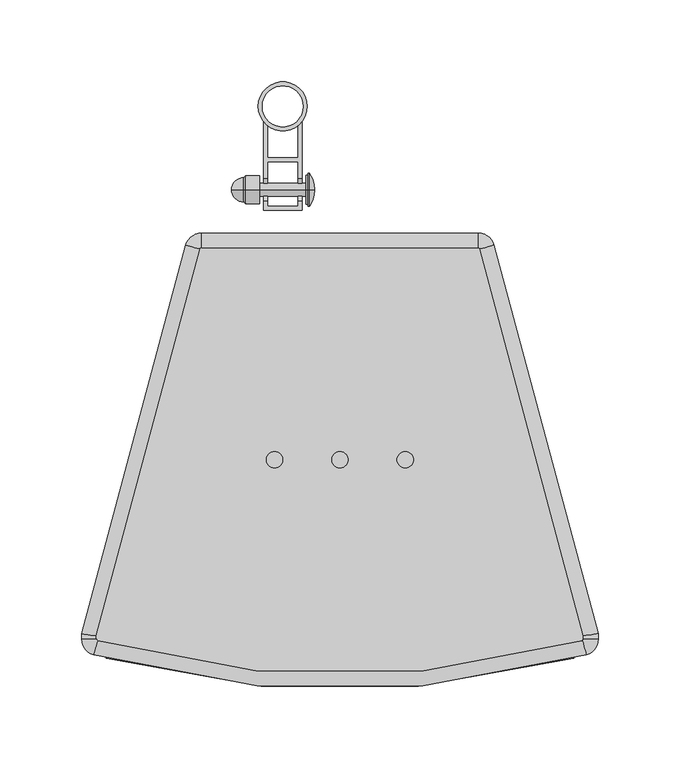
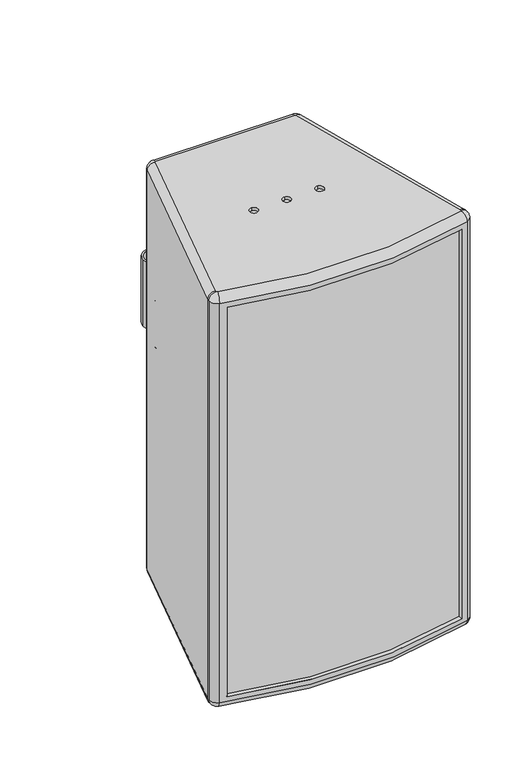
"""IFC4 building model written with IfcOpenShell, lengths in millimetres: proxy geometry, ePS10-WM02-WVM : ePS10-WM02-WVM."""

from ifc_helpers import new_model, si_unit, point, frame, frame_2d, origin, place, context, project, spatial, polyline, circle_curve, ellipse_curve, trimmed, segment, composite_curve, outline, extrude, source, transform, mapped, element, save
from ifc_brep_helpers import plane_surface, cylinder_surface, revolved_surface, advanced_brep


def generic_models_975c6ad0(model_context):
    return source(origin(), model_context, "Body", "SolidModel", [
        advanced_brep(
        [(34.9999424, -247.0947355, 229.96604), (34.9999424, -237.0947355, 229.96604), (34.9999424, -237.0947355, 233.96604), (34.9999424, -247.0947355, 233.96604), (74.9999424, -247.0947355, 229.96604), (74.9999424, -237.0947355, 229.96604), (74.9999424, -237.0947355, 233.96604), (74.9999424, -247.0947355, 233.96604), (-108.0000576, -363.4952849, 218.96604), (-108.0000576, -358.3114485, 218.96604), (177.9999424, -358.3114485, 218.96604), (177.9999424, -363.4952849, 218.96604), (177.9999424, -363.4952849, -282.03396), (177.9999424, -358.3114485, -282.03396), (-108.0000576, -358.3114485, -282.03396), (-108.0000576, -363.4952849, -282.03396), (34.9999424, -237.0947355, -293.03396), (34.9999424, -247.0947355, -293.03396), (-5.0000576, -237.0947355, -293.03396), (-5.0000576, -247.0947355, -293.03396), (74.9999424, -237.0947355, -293.03396), (74.9999424, -247.0947355, -293.03396), (-123.0000576, -348.5252126, 224.9743166), (-59.3317381, -110.9118096, 224.9743166), (-59.3317381, -110.9118096, -288.03396), (-123.0000576, -348.5252126, -288.03396), (-123.0000576, -351.7088177, 224.9743166), (-123.0000576, -351.7088177, -288.03396), (185.7700397, -361.3174888, 224.9743166), (-115.7701548, -361.3174888, 224.9743166), (-115.7701548, -361.3174888, -288.033966), (185.7700397, -361.3174888, -288.03396), (192.9999424, -348.5252126, 224.9743166), (192.9999424, -351.7088177, 224.9743166), (192.9999424, -351.7088177, -288.03396), (192.9999424, -348.5252126, -288.03396), (129.331623, -110.9118096, 224.9743166), (129.331623, -110.9118096, -288.03396), (119.6723647, -103.5, 224.9743166), (119.6723647, -103.5, -288.03396), (-5.6566602, -109.5947355, 38.46604), (5.6566602, -109.5947355, 38.46604), (5.6566602, -103.5, 38.46604), (-5.6566602, -103.5, 38.46604), (-114.0083342, -351.7088177, 233.96604), (-113.27936, -352.6776375, 233.96604), (183.2792449, -352.6776375, 233.96604), (184.0082191, -351.7088177, 233.96604), (184.0082191, -349.7089954, 233.96604), (120.6462852, -113.2390388, 233.96604), (119.6723647, -112.4917234, 233.96604), (-49.6724798, -103.5, 224.9743166), (-49.6724798, -112.4917234, 233.96604), (-50.6464003, -113.2390388, 233.96604), (-114.0083342, -349.7089954, 233.96604), (-5.0000576, -247.0947355, 233.96604), (-5.0000576, -237.0947355, 233.96604), (119.6723647, -112.5, -297.03396), (120.6382906, -113.241181, -297.03396), (183.9999424, -349.710085, -297.03396), (183.9999424, -351.7088177, -297.03396), (183.2769522, -352.6696848, -297.03396), (-113.2770673, -352.6696848, -297.03396), (-114.0000576, -351.7088177, -297.03396), (-114.0000576, -349.710085, -297.03396), (-50.6384057, -113.241181, -297.03396), (-49.6724798, -112.5, -297.03396), (34.9999424, -237.0947355, -297.03396), (34.9999424, -247.0947355, -297.03396), (-5.0000576, -237.0947355, -297.03396), (-5.0000576, -247.0947355, -297.03396), (74.9999424, -237.0947355, -297.03396), (74.9999424, -247.0947355, -297.03396), (-5.0000576, -237.0947355, 229.96604), (-5.0000576, -247.0947355, 229.96604), (75.6566602, -109.5947355, -31.53396), (64.3433398, -109.5947355, -31.53396), (5.6566602, -109.5947355, -31.53396), (-5.6566602, -109.5947355, -31.53396), (64.3433398, -103.5, -31.53396), (75.6566602, -103.5, -31.53396), (-49.6724798, -103.5, -288.03396), (5.6566602, -103.5, -31.53396), (-5.6566602, -103.5, -31.53396)],
        [
            (0, 1, circle_curve(frame((34.9999424, -242.0947355, 229.96604), z_axis=(0.0, 0.0, -1.0), x_axis=(0.0, -1.0, 0.0)), 5.0)),
            (1, 2),
            (2, 3, circle_curve(frame((34.9999424, -242.0947355, 233.96604), z_axis=(0.0, 0.0, 1.0), x_axis=(0.0, -1.0, 0.0)), 5.0)),
            (3, 0),
            (4, 5, circle_curve(frame((74.9999424, -242.0947355, 229.96604), z_axis=(0.0, 0.0, -1.0), x_axis=(0.0, -1.0, 0.0)), 5.0)),
            (5, 6),
            (6, 7, circle_curve(frame((74.9999424, -242.0947355, 233.96604), z_axis=(0.0, 0.0, 1.0), x_axis=(0.0, -1.0, 0.0)), 5.0)),
            (7, 4),
            (8, 9),
            (9, 10, circle_curve(frame((34.9999424, 161.660636, 218.96604), z_axis=(0.0, 0.0, 1.0), x_axis=(1.0, 0.0, 0.0)), 539.277265)),
            (10, 11),
            (11, 8, circle_curve(frame((34.9999424, 161.660636, 218.96604), z_axis=(0.0, 0.0, -1.0), x_axis=(1.0, 0.0, 0.0)), 544.277265)),
            (12, 13),
            (13, 14, circle_curve(frame((34.9999424, 161.660636, -282.03396), z_axis=(0.0, 0.0, -1.0), x_axis=(1.0, 0.0, 0.0)), 539.277265)),
            (14, 15),
            (15, 12, circle_curve(frame((34.9999424, 161.660636, -282.03396), z_axis=(0.0, 0.0, 1.0), x_axis=(1.0, 0.0, 0.0)), 544.277265)),
            (16, 17, circle_curve(frame((34.9999424, -242.0947355, -293.03396), z_axis=(0.0, 0.0, -1.0), x_axis=(0.0, -1.0, 0.0)), 5.0)),
            (17, 16, circle_curve(frame((34.9999424, -242.0947355, -293.03396), z_axis=(0.0, 0.0, -1.0), x_axis=(0.0, -1.0, 0.0)), 5.0)),
            (18, 19, circle_curve(frame((-5.0000576, -242.0947355, -293.03396), z_axis=(0.0, 0.0, -1.0), x_axis=(0.0, -1.0, 0.0)), 5.0)),
            (19, 18, circle_curve(frame((-5.0000576, -242.0947355, -293.03396), z_axis=(0.0, 0.0, -1.0), x_axis=(0.0, -1.0, 0.0)), 5.0)),
            (20, 21, circle_curve(frame((74.9999424, -242.0947355, -293.03396), z_axis=(0.0, 0.0, -1.0), x_axis=(0.0, -1.0, 0.0)), 5.0)),
            (21, 20, circle_curve(frame((74.9999424, -242.0947355, -293.03396), z_axis=(0.0, 0.0, -1.0), x_axis=(0.0, -1.0, 0.0)), 5.0)),
            (22, 23),
            (23, 24),
            (24, 25),
            (25, 22),
            (26, 22),
            (25, 27),
            (27, 26),
            (28, 29, circle_curve(frame((34.9999424, 161.660636, 224.9743166), z_axis=(0.0, 0.0, -1.0), x_axis=(1.0, 0.0, 0.0)), 544.277265)),
            (29, 30),
            (30, 31, circle_curve(frame((34.9999424, 161.660636, -288.03396), z_axis=(0.0, 0.0, 1.0), x_axis=(1.0, 0.0, 0.0)), 544.277265)),
            (31, 28),
            (11, 12),
            (15, 8),
            (32, 33),
            (33, 34),
            (34, 35),
            (35, 32),
            (36, 32),
            (35, 37),
            (37, 36),
            (38, 36, circle_curve(frame((119.6723647, -113.5, 224.9743166), z_axis=(0.0, 0.0, -1.0), x_axis=(1.0, 0.0, 0.0)), 10.0)),
            (37, 39, circle_curve(frame((119.6723647, -113.5, -288.03396), z_axis=(0.0, 0.0, 1.0), x_axis=(1.0, 0.0, 0.0)), 10.0)),
            (39, 38),
            (29, 26, circle_curve(frame((-113.0000576, -351.7088177, 224.9743166), z_axis=(0.0, 0.0, -1.0), x_axis=(1.0, 0.0, 0.0)), 10.0)),
            (27, 30, circle_curve(frame((-113.0000576, -351.7088177, -288.03396), z_axis=(0.0, 0.0, 1.0), x_axis=(1.0, 0.0, 0.0)), 10.0)),
            (33, 28, circle_curve(frame((182.9999424, -351.7088177, 224.9743166), z_axis=(0.0, 0.0, -1.0), x_axis=(1.0, 0.0, 0.0)), 10.0)),
            (31, 34, circle_curve(frame((182.9999424, -351.7088177, -288.03396), z_axis=(0.0, 0.0, 1.0), x_axis=(1.0, 0.0, 0.0)), 10.0)),
            (40, 41, circle_curve(frame((0.0, -109.5947355, 38.46604), z_axis=(0.0, -1.0, 0.0), x_axis=(-1.0, 0.0, 0.0)), 5.6566602)),
            (41, 42),
            (42, 43, circle_curve(frame((0.0, -103.5, 38.46604), z_axis=(0.0, 1.0, 0.0), x_axis=(-1.0, 0.0, 0.0)), 5.6566602)),
            (43, 40),
            (41, 40, circle_curve(frame((0.0, -109.5947355, 38.46604), z_axis=(0.0, -1.0, 0.0), x_axis=(-1.0, 0.0, 0.0)), 5.6566602)),
            (43, 42, circle_curve(frame((0.0, -103.5, 38.46604), z_axis=(0.0, 1.0, 0.0), x_axis=(-1.0, 0.0, 0.0)), 5.6566602)),
            (10, 13),
            (44, 26, circle_curve(frame((-114.0083342, -351.7088177, 224.9743166), z_axis=(0.0, -1.0, 0.0), x_axis=(1.0, 0.0, 0.0)), 8.9917234)),
            (29, 45, circle_curve(frame((-113.27936, -352.6776375, 224.9743166), z_axis=(-0.960867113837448, 0.27700972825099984, 0.0), x_axis=(0.27700972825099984, 0.960867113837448, 0.0)), 8.9917234)),
            (45, 44, circle_curve(frame((-113.0000576, -351.7088177, 233.96604), z_axis=(0.0, 0.0, -1.0), x_axis=(-1.0, 0.0, 0.0)), 1.0082766)),
            (28, 46, circle_curve(frame((183.2792449, -352.6776375, 224.9743166), z_axis=(-0.9608671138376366, -0.27700972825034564, 0.0), x_axis=(-0.27700972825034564, 0.9608671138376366, 0.0)), 8.9917234)),
            (46, 45, circle_curve(frame((34.9999424, 161.660636, 233.96604), z_axis=(0.0, 0.0, -1.0), x_axis=(-0.27700972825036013, -0.9608671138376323, 0.0)), 535.2855417)),
            (33, 47, circle_curve(frame((184.0082191, -351.7088177, 224.9743166), z_axis=(0.0, -1.0000000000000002, 0.0), x_axis=(-1.0000000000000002, 0.0, 0.0)), 8.9917234)),
            (47, 46, circle_curve(frame((182.9999424, -351.7088177, 233.96604), z_axis=(0.0, 0.0, -1.0), x_axis=(0.2770097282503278, -0.9608671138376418, 0.0)), 1.0082766)),
            (32, 48, ellipse_curve(frame((184.0082191, -349.7089954, 224.9743166), z_axis=(0.1305261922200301, -0.9914448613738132, 0.0), x_axis=(0.991444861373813, 0.13052619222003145, 0.0)), 9.0693126, 8.9917234)),
            (48, 47),
            (36, 49, circle_curve(frame((120.6462852, -113.2390388, 224.9743166), z_axis=(0.25881904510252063, -0.9659258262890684, 0.0), x_axis=(-0.9659258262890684, -0.25881904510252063, 0.0)), 8.9917234)),
            (49, 48),
            (38, 50, circle_curve(frame((119.6723647, -112.4917234, 224.9743166), z_axis=(1.0, 0.0, 0.0), x_axis=(0.0, -1.0, 0.0)), 8.9917234)),
            (50, 49, circle_curve(frame((119.6723647, -113.5, 233.96604), z_axis=(0.0, 0.0, -1.0), x_axis=(0.9659258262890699, 0.25881904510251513, 0.0)), 1.0082766)),
            (51, 52, circle_curve(frame((-49.6724798, -112.4917234, 224.9743166), z_axis=(1.0, 0.0, 0.0), x_axis=(0.0, -1.0, 0.0)), 8.9917234)),
            (52, 50),
            (38, 51),
            (52, 53, circle_curve(frame((-49.6724798, -113.5, 233.96604), z_axis=(0.0, 0.0, 1.0), x_axis=(0.0, 1.0, 0.0)), 1.0082766)),
            (53, 54),
            (54, 44),
            (2, 3, circle_curve(frame((34.9999424, -242.0947355, 233.96604), z_axis=(0.0, 0.0, -1.0), x_axis=(0.0, -1.0, 0.0)), 5.0)),
            (55, 56, circle_curve(frame((-5.0000576, -242.0947355, 233.96604), z_axis=(0.0, 0.0, -1.0), x_axis=(0.0, -1.0, 0.0)), 5.0)),
            (56, 55, circle_curve(frame((-5.0000576, -242.0947355, 233.96604), z_axis=(0.0, 0.0, -1.0), x_axis=(0.0, -1.0, 0.0)), 5.0)),
            (6, 7, circle_curve(frame((74.9999424, -242.0947355, 233.96604), z_axis=(0.0, 0.0, -1.0), x_axis=(0.0, -1.0, 0.0)), 5.0)),
            (57, 58, circle_curve(frame((119.6723647, -113.5, -297.03396), z_axis=(0.0, 0.0, -1.0), x_axis=(0.0, 1.0, 0.0)), 1.0)),
            (58, 59),
            (59, 60),
            (60, 61, circle_curve(frame((182.9999424, -351.7088177, -297.03396), z_axis=(0.0, 0.0, -1.0), x_axis=(1.0, 0.0, 0.0)), 1.0)),
            (61, 62, circle_curve(frame((34.9999424, 161.660636, -297.03396), z_axis=(0.0, 0.0, -1.0), x_axis=(0.27700972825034, -0.9608671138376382, 0.0)), 535.277265)),
            (62, 63, circle_curve(frame((-113.0000576, -351.7088177, -297.03396), z_axis=(0.0, 0.0, -1.0), x_axis=(-0.2770097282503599, -0.9608671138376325, 0.0)), 1.0)),
            (63, 64),
            (64, 65),
            (65, 66, circle_curve(frame((-49.6724798, -113.5, -297.03396), z_axis=(0.0, 0.0, -1.0), x_axis=(-0.9659258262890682, 0.25881904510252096, 0.0)), 1.0)),
            (66, 57),
            (67, 68, circle_curve(frame((34.9999424, -242.0947355, -297.03396), z_axis=(0.0, 0.0, 1.0), x_axis=(0.0, -1.0, 0.0)), 5.0)),
            (68, 67, circle_curve(frame((34.9999424, -242.0947355, -297.03396), z_axis=(0.0, 0.0, 1.0), x_axis=(0.0, -1.0, 0.0)), 5.0)),
            (69, 70, circle_curve(frame((-5.0000576, -242.0947355, -297.03396), z_axis=(0.0, 0.0, 1.0), x_axis=(0.0, -1.0, 0.0)), 5.0)),
            (70, 69, circle_curve(frame((-5.0000576, -242.0947355, -297.03396), z_axis=(0.0, 0.0, 1.0), x_axis=(0.0, -1.0, 0.0)), 5.0)),
            (71, 72, circle_curve(frame((74.9999424, -242.0947355, -297.03396), z_axis=(0.0, 0.0, 1.0), x_axis=(0.0, -1.0, 0.0)), 5.0)),
            (72, 71, circle_curve(frame((74.9999424, -242.0947355, -297.03396), z_axis=(0.0, 0.0, 1.0), x_axis=(0.0, -1.0, 0.0)), 5.0)),
            (0, 1, circle_curve(frame((34.9999424, -242.0947355, 229.96604), z_axis=(0.0, 0.0, 1.0), x_axis=(0.0, -1.0, 0.0)), 5.0)),
            (73, 74, circle_curve(frame((-5.0000576, -242.0947355, 229.96604), z_axis=(0.0, 0.0, 1.0), x_axis=(0.0, -1.0, 0.0)), 5.0)),
            (74, 73, circle_curve(frame((-5.0000576, -242.0947355, 229.96604), z_axis=(0.0, 0.0, 1.0), x_axis=(0.0, -1.0, 0.0)), 5.0)),
            (4, 5, circle_curve(frame((74.9999424, -242.0947355, 229.96604), z_axis=(0.0, 0.0, 1.0), x_axis=(0.0, -1.0, 0.0)), 5.0)),
            (17, 68),
            (67, 16),
            (19, 70),
            (69, 18),
            (21, 72),
            (71, 20),
            (75, 76, circle_curve(frame((70.0, -109.5947355, -31.53396), z_axis=(0.0, 1.0, 0.0), x_axis=(-1.0, 0.0, 0.0)), 5.6566602)),
            (76, 75, circle_curve(frame((70.0, -109.5947355, -31.53396), z_axis=(0.0, 1.0, 0.0), x_axis=(-1.0, 0.0, 0.0)), 5.6566602)),
            (77, 78, circle_curve(frame((0.0, -109.5947355, -31.53396), z_axis=(0.0, 1.0, 0.0), x_axis=(-1.0, 0.0, 0.0)), 5.6566602)),
            (78, 77, circle_curve(frame((0.0, -109.5947355, -31.53396), z_axis=(0.0, 1.0, 0.0), x_axis=(-1.0, 0.0, 0.0)), 5.6566602)),
            (76, 79),
            (79, 80, circle_curve(frame((70.0, -103.5, -31.53396), z_axis=(0.0, 1.0, 0.0), x_axis=(-1.0, 0.0, 0.0)), 5.6566602)),
            (80, 75),
            (80, 79, circle_curve(frame((70.0, -103.5, -31.53396), z_axis=(0.0, 1.0, 0.0), x_axis=(-1.0, 0.0, 0.0)), 5.6566602)),
            (39, 81),
            (81, 51),
            (82, 83, circle_curve(frame((0.0, -103.5, -31.53396), z_axis=(0.0, -1.0, 0.0), x_axis=(-1.0, 0.0, 0.0)), 5.6566602)),
            (83, 82, circle_curve(frame((0.0, -103.5, -31.53396), z_axis=(0.0, -1.0, 0.0), x_axis=(-1.0, 0.0, 0.0)), 5.6566602)),
            (9, 14),
            (23, 53, circle_curve(frame((-50.6464003, -113.2390388, 224.9743166), z_axis=(0.2588190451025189, 0.9659258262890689, 0.0), x_axis=(0.9659258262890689, -0.2588190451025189, 0.0)), 8.9917234)),
            (51, 23, circle_curve(frame((-49.6724798, -113.5, 224.9743166), z_axis=(0.0, 0.0, 1.0), x_axis=(0.0, 1.0, 0.0)), 10.0)),
            (22, 54, ellipse_curve(frame((-114.0083342, -349.7089954, 224.9743166), z_axis=(0.1305261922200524, 0.9914448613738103, 0.0), x_axis=(-0.9914448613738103, 0.13052619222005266, 0.0)), 9.0693126, 8.9917234)),
            (61, 31, circle_curve(frame((183.2769522, -352.6696848, -288.03396), z_axis=(-0.9608671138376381, -0.2770097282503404, 0.0), x_axis=(-0.2770097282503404, 0.9608671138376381, 0.0)), 9.0)),
            (30, 62, circle_curve(frame((-113.2770673, -352.6696848, -288.03396), z_axis=(0.9608671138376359, -0.2770097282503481, 0.0), x_axis=(0.2770097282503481, 0.9608671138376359, 0.0)), 9.0)),
            (27, 63, circle_curve(frame((-114.0000576, -351.7088177, -288.03396), z_axis=(0.0, -1.0, 0.0), x_axis=(1.0, 0.0, 0.0)), 9.0)),
            (25, 64, ellipse_curve(frame((-114.0000576, -349.710085, -288.03396), z_axis=(-0.1305261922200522, -0.9914448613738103, 0.0), x_axis=(-0.9914448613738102, 0.1305261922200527, 0.0)), 9.0776606, 9.0)),
            (24, 65, circle_curve(frame((-50.6384057, -113.241181, -288.03396), z_axis=(-0.25881904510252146, -0.9659258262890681, 0.0), x_axis=(0.9659258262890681, -0.25881904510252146, 0.0)), 9.0)),
            (24, 81, circle_curve(frame((-49.6724798, -113.5, -288.03396), z_axis=(0.0, 0.0, -1.0), x_axis=(-0.9659258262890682, 0.25881904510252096, 0.0)), 10.0)),
            (81, 66, circle_curve(frame((-49.6724798, -112.5, -288.03396), z_axis=(-1.0, 0.0, 0.0), x_axis=(0.0, -1.0, 0.0)), 9.0)),
            (39, 57, circle_curve(frame((119.6723647, -112.5, -288.03396), z_axis=(-1.0, 0.0, 0.0), x_axis=(0.0, -1.0, 0.0)), 9.0)),
            (73, 56),
            (55, 74),
            (78, 83),
            (82, 77),
            (37, 58, circle_curve(frame((120.6382906, -113.241181, -288.03396), z_axis=(-0.25881904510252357, 0.9659258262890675, 0.0), x_axis=(-0.9659258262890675, -0.25881904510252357, 0.0)), 9.0)),
            (35, 59, ellipse_curve(frame((183.9999424, -349.710085, -288.03396), z_axis=(-0.13052619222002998, 0.9914448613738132, 0.0), x_axis=(0.9914448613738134, 0.13052619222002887, 0.0)), 9.0776606, 9.0)),
            (34, 60, circle_curve(frame((183.9999424, -351.7088177, -288.03396), z_axis=(0.0, 1.0, 0.0), x_axis=(-1.0, 0.0, 0.0)), 9.0)),
        ],
        [
            revolved_surface(polyline([(34.9999424, -247.0947355, 233.96604), (34.9999424, -247.0947355, 229.96604)]), (34.9999424, -242.0947355, 229.96604), (0.0, 0.0, 1.0)),
            revolved_surface(polyline([(74.9999424, -247.0947355, 233.96604), (74.9999424, -247.0947355, 229.96604)]), (74.9999424, -242.0947355, 233.96604), (0.0, 0.0, 1.0)),
            plane_surface(frame((177.9999424, -428.8546532, 218.96604), z_axis=(0.0, 0.0, -1.0), x_axis=(0.0, 1.0, 0.0))),
            plane_surface(frame((177.9999424, -428.8546532, -282.03396), z_axis=(0.0, 0.0, 1.0), x_axis=(0.0, -1.0, 0.0))),
            plane_surface(frame((34.9999424, -247.0947355, -293.03396), z_axis=(0.0, 0.0, -1.0), x_axis=(1.0, 0.0, 0.0))),
            plane_surface(frame((-59.3317381, -110.9118096, 233.96604), z_axis=(-0.965925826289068, 0.258819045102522, 0.0), x_axis=(0.0, 0.0, -1.0))),
            plane_surface(frame((-123.0000576, -348.5252126, 233.96604), z_axis=(-1.0, 0.0, 0.0), x_axis=(0.0, 0.0, -1.0))),
            cylinder_surface(frame((34.9999424, 161.660636, -297.03396), z_axis=(0.0, 0.0, 1.0), x_axis=(1.0, 0.0, 0.0)), 544.277265),
            plane_surface(frame((192.9999424, -351.7088177, 233.96604), z_axis=(1.0, 0.0, 0.0), x_axis=(0.0, 0.0, -1.0))),
            plane_surface(frame((192.9999424, -348.5252126, 233.96604), z_axis=(0.9659258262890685, 0.2588190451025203, 0.0), x_axis=(0.0, 0.0, -1.0))),
            cylinder_surface(frame((119.6723647, -113.5, -297.03396), z_axis=(0.0, 0.0, 1.0), x_axis=(1.0, 0.0, 0.0)), 10.0),
            cylinder_surface(frame((-113.0000576, -351.7088177, -297.03396), z_axis=(0.0, 0.0, 1.0), x_axis=(1.0, 0.0, 0.0)), 10.0),
            cylinder_surface(frame((182.9999424, -351.7088177, -297.03396), z_axis=(0.0, 0.0, 1.0), x_axis=(1.0, 0.0, 0.0)), 10.0),
            revolved_surface(polyline([(-5.6566602, -103.5, 38.46604), (-5.6566602, -109.5947355, 38.46604)]), (0.0, -97.5947355, 38.46604), (0.0, 1.0, 0.0)),
            plane_surface(frame((177.9999424, -363.4952849, 218.96604), z_axis=(-1.0, 0.0, 0.0), x_axis=(0.0, 0.0, -1.0))),
            revolved_surface(trimmed(ellipse_curve(frame((-114.0083342, -351.7088177, 224.9743166), z_axis=(0.0, 1.0, 0.0), x_axis=(1.0, 0.0, 0.0)), 8.9917234, 8.9917234), [point((-123.0000576, -351.7088177, 224.9743166))], [point((-114.0083342, -351.7088177, 233.96604))], True, "CARTESIAN"), (-113.0000576, -351.7088177, 233.96604), (0.0, 0.0, 1.0)),
            revolved_surface(trimmed(ellipse_curve(frame((-113.27936, -352.6776375, 224.9743166), z_axis=(-0.9608671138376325, 0.27700972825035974, 0.0), x_axis=(0.27700972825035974, 0.9608671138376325, 0.0)), 8.9917234, 8.9917234), [point((-115.7701548, -361.3174888, 224.9743166))], [point((-113.27936, -352.6776375, 233.96604))], True, "CARTESIAN"), (34.9999424, 161.660636, 233.96604), (0.0, 0.0, 1.0)),
            revolved_surface(trimmed(ellipse_curve(frame((183.2792449, -352.6776375, 224.9743166), z_axis=(-0.9608671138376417, -0.27700972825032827, 0.0), x_axis=(-0.27700972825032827, 0.9608671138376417, 0.0)), 8.9917234, 8.9917234), [point((185.7700397, -361.3174888, 224.9743166))], [point((183.2792449, -352.6776375, 233.96604))], True, "CARTESIAN"), (182.9999424, -351.7088177, 233.96604), (0.0, 0.0, 1.0)),
            cylinder_surface(frame((184.0082191, -351.7088177, 224.9743166), z_axis=(0.0, 1.0, 0.0), x_axis=(-1.0, 0.0, 0.0)), 8.9917234),
            cylinder_surface(frame((184.3146046, -350.8524418, 224.9743166), z_axis=(-0.25881904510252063, 0.9659258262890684, 0.0), x_axis=(-0.9659258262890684, -0.25881904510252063, 0.0)), 8.9917234),
            revolved_surface(trimmed(ellipse_curve(frame((120.6462852, -113.2390388, 224.9743166), z_axis=(0.25881904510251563, -0.9659258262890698, 0.0), x_axis=(-0.9659258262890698, -0.25881904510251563, 0.0)), 8.9917234, 8.9917234), [point((129.331623, -110.9118096, 224.9743166))], [point((120.6462852, -113.2390388, 233.96604))], True, "CARTESIAN"), (119.6723647, -113.5, 233.96604), (0.0, 0.0, 1.0)),
            cylinder_surface(frame((119.6723647, -112.4917234, 224.9743166), z_axis=(-1.0, 0.0, 0.0), x_axis=(0.0, -1.0, 0.0)), 8.9917234),
            plane_surface(frame((-50.0561433, -103.5, 233.96604), z_axis=(0.0, 0.0, 1.0), x_axis=(-1.0, 0.0, 0.0))),
            plane_surface(frame((-50.0561433, -103.5, -297.03396), z_axis=(0.0, 0.0, -1.0), x_axis=(1.0, 0.0, 0.0))),
            plane_surface(frame((34.9999424, -247.0947355, 229.96604), z_axis=(0.0, 0.0, 1.0), x_axis=(-1.0, 0.0, 0.0))),
            revolved_surface(polyline([(34.9999424, -247.0947355, -293.03396), (34.9999424, -247.0947355, -297.03396)]), (34.9999424, -242.0947355, -301.03396), (0.0, 0.0, 1.0)),
            revolved_surface(polyline([(-5.0000576, -247.0947355, -293.03396), (-5.0000576, -247.0947355, -297.03396)]), (-5.0000576, -242.0947355, -297.03396), (0.0, 0.0, 1.0)),
            revolved_surface(polyline([(74.9999424, -247.0947355, -293.03396), (74.9999424, -247.0947355, -297.03396)]), (74.9999424, -242.0947355, -297.03396), (0.0, 0.0, 1.0)),
            plane_surface(frame((-5.6566602, -109.5947355, -31.53396), z_axis=(0.0, 1.0, 0.0), x_axis=(0.0, 0.0, -1.0))),
            revolved_surface(polyline([(64.3433398, -103.5, -31.53396), (64.3433398, -109.5947355, -31.53396)]), (70.0, -97.5947355, -31.53396), (0.0, 1.0, 0.0)),
            plane_surface(frame((119.6723647, -103.5, 233.96604), z_axis=(0.0, 1.0, 0.0), x_axis=(0.0, 0.0, -1.0))),
            cylinder_surface(frame((34.9999424, 161.660636, -282.03396), z_axis=(0.0, 0.0, -1.0), x_axis=(1.0, 0.0, 0.0)), 539.277265),
            plane_surface(frame((-108.0000576, -358.3114485, 218.96604), z_axis=(1.0, 0.0, 0.0), x_axis=(0.0, 0.0, -1.0))),
            revolved_surface(trimmed(ellipse_curve(frame((-49.6724798, -112.4917234, 224.9743166), z_axis=(1.0, 0.0, 0.0), x_axis=(0.0, -1.0, 0.0)), 8.9917234, 8.9917234), [point((-49.6724798, -103.5, 224.9743166))], [point((-49.6724798, -112.4917234, 233.96604))], True, "CARTESIAN"), (-49.6724798, -113.5, 233.96604), (0.0, 0.0, 1.0)),
            cylinder_surface(frame((-50.6464003, -113.2390388, 224.9743166), z_axis=(-0.2588190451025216, -0.965925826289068, 0.0), x_axis=(0.965925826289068, -0.2588190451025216, 0.0)), 8.9917234),
            revolved_surface(trimmed(ellipse_curve(frame((183.2769522, -352.6696848, -288.03396), z_axis=(0.9608671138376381, 0.2770097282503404, 0.0), x_axis=(-0.2770097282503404, 0.9608671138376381, 0.0)), 9.0, 9.0), [point((185.7700397, -361.3174888, -288.03396))], [point((183.2769522, -352.6696848, -297.03396))], True, "CARTESIAN"), (34.9999424, 161.660636, -297.03396), (0.0, 0.0, -1.0)),
            revolved_surface(trimmed(ellipse_curve(frame((-113.2770673, -352.6696848, -288.03396), z_axis=(0.9608671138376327, -0.27700972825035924, 0.0), x_axis=(0.27700972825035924, 0.9608671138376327, 0.0)), 9.0, 9.0), [point((-115.7701548, -361.3174888, -288.03396))], [point((-113.2770673, -352.6696848, -297.03396))], True, "CARTESIAN"), (-113.0000576, -351.7088177, -297.03396), (0.0, 0.0, -1.0)),
            cylinder_surface(frame((-114.0000576, -351.7088177, -288.03396), z_axis=(0.0, 1.0, 0.0), x_axis=(1.0, 0.0, 0.0)), 9.0),
            cylinder_surface(frame((-114.3067251, -350.854584, -288.03396), z_axis=(0.25881904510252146, 0.9659258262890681, 0.0), x_axis=(0.9659258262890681, -0.25881904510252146, 0.0)), 9.0),
            revolved_surface(trimmed(ellipse_curve(frame((-50.6384057, -113.241181, -288.03396), z_axis=(-0.25881904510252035, -0.9659258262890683, 0.0), x_axis=(0.9659258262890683, -0.25881904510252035, 0.0)), 9.0, 9.0), [point((-59.3317381, -110.9118096, -288.03396))], [point((-50.6384057, -113.241181, -297.03396))], True, "CARTESIAN"), (-49.6724798, -113.5, -297.03396), (0.0, 0.0, -1.0)),
            cylinder_surface(frame((-49.6724798, -112.5, -288.03396), z_axis=(1.0, 0.0, 0.0), x_axis=(0.0, -1.0, 0.0)), 9.0),
            revolved_surface(polyline([(-5.0000576, -247.0947355, 233.96604), (-5.0000576, -247.0947355, 229.96604)]), (-5.0000576, -242.0947355, 233.96604), (0.0, 0.0, 1.0)),
            revolved_surface(polyline([(-5.6566602, -103.5, -31.53396), (-5.6566602, -109.5947355, -31.53396)]), (0.0, -109.5947355, -31.53396), (0.0, 1.0, 0.0)),
            cylinder_surface(frame((-49.6724798, -113.5, -297.03396), z_axis=(0.0, 0.0, 1.0), x_axis=(1.0, 0.0, 0.0)), 10.0),
            cylinder_surface(frame((-114.0083342, -348.5252126, 224.9743166), z_axis=(0.0, -1.0, 0.0), x_axis=(1.0, 0.0, 0.0)), 8.9917234),
            revolved_surface(trimmed(ellipse_curve(frame((119.6723647, -112.5, -288.03396), z_axis=(-1.0, 0.0, 0.0), x_axis=(0.0, -1.0, 0.0)), 9.0, 9.0), [point((119.6723647, -103.5, -288.03396))], [point((119.6723647, -112.5, -297.03396))], True, "CARTESIAN"), (119.6723647, -113.5, -297.03396), (0.0, 0.0, -1.0)),
            cylinder_surface(frame((120.6382906, -113.241181, -288.03396), z_axis=(0.2588190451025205, -0.9659258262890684, 0.0), x_axis=(-0.9659258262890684, -0.2588190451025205, 0.0)), 9.0),
            cylinder_surface(frame((183.9999424, -348.5252126, -288.03396), z_axis=(0.0, -1.0, 0.0), x_axis=(-1.0, 0.0, 0.0)), 9.0),
            revolved_surface(trimmed(ellipse_curve(frame((183.9999424, -351.7088177, -288.03396), z_axis=(0.0, 1.0, 0.0), x_axis=(-1.0, 0.0, 0.0)), 9.0, 9.0), [point((192.9999424, -351.7088177, -288.03396))], [point((183.9999424, -351.7088177, -297.03396))], True, "CARTESIAN"), (182.9999424, -351.7088177, -297.03396), (0.0, 0.0, -1.0)),
        ],
        [
            (0, [[1, 2, 3, 4]]),
            (1, [[5, 6, 7, 8]]),
            (2, [[9, 10, 11, 12]]),
            (3, [[13, 14, 15, 16]]),
            (4, [[17, 18]]),
            (4, [[19, 20]]),
            (4, [[21, 22]]),
            (5, [[23, 24, 25, 26]]),
            (6, [[27, -26, 28, 29]]),
            (7, [[30, 31, 32, 33], [-12, 34, -16, 35]]),
            (8, [[36, 37, 38, 39]]),
            (9, [[40, -39, 41, 42]]),
            (10, [[43, -42, 44, 45]]),
            (11, [[46, -29, 47, -31]]),
            (12, [[48, -33, 49, -37]]),
            (13, [[50, 51, 52, 53]]),
            (13, [[54, -53, 55, -51]]),
            (14, [[-11, 56, -13, -34]]),
            (15, [[57, -46, 58, 59]]),
            (16, [[-58, -30, 60, 61]]),
            (17, [[-60, -48, 62, 63]]),
            (18, [[-62, -36, 64, 65]]),
            (19, [[-64, -40, 66, 67]]),
            (20, [[-66, -43, 68, 69]]),
            (21, [[70, 71, -68, 72]]),
            (22, [[73, 74, 75, -59, -61, -63, -65, -67, -69, -71], [-3, 76], [77, 78], [-7, 79]]),
            (23, [[80, 81, 82, 83, 84, 85, 86, 87, 88, 89], [90, 91], [92, 93], [94, 95]]),
            (24, [[-1, 96]]),
            (24, [[97, 98]]),
            (24, [[-5, 99]]),
            (25, [[-18, 100, -90, 101]]),
            (26, [[-20, 102, -92, 103]]),
            (27, [[-22, 104, -94, 105]]),
            (28, [[106, 107]]),
            (28, [[-50, -54]]),
            (28, [[108, 109]]),
            (29, [[-107, 110, 111, 112]]),
            (29, [[-106, -112, 113, -110]]),
            (30, [[-72, -45, 114, 115], [116, 117], [-111, -113], [-52, -55]]),
            (31, [[-10, 118, -14, -56]]),
            (32, [[-9, -35, -15, -118]]),
            (33, [[119, -73, -70, 120]]),
            (34, [[-119, -23, 121, -74]]),
            (35, [[122, -32, 123, -84]]),
            (36, [[-123, -47, 124, -85]]),
            (37, [[-124, -28, 125, -86]]),
            (38, [[-125, -25, 126, -87]]),
            (39, [[-126, 127, 128, -88]]),
            (40, [[129, -89, -128, -114]]),
            (0, [[-96, -4, -76, -2]]),
            (41, [[-97, 130, -77, 131]]),
            (41, [[-98, -131, -78, -130]]),
            (1, [[-99, -8, -79, -6]]),
            (25, [[-17, -101, -91, -100]]),
            (26, [[-19, -103, -93, -102]]),
            (27, [[-21, -105, -95, -104]]),
            (42, [[-109, 132, -116, 133]]),
            (42, [[-108, -133, -117, -132]]),
            (43, [[-120, -115, -127, -24]]),
            (44, [[-121, -27, -57, -75]]),
            (45, [[134, -80, -129, -44]]),
            (46, [[-134, -41, 135, -81]]),
            (47, [[-135, -38, 136, -82]]),
            (48, [[-136, -49, -122, -83]]),
        ],
    ),
        advanced_brep(
        [(16.4820858, -77.0, -39.5), (16.4820858, -77.0, -19.5), (19.4412891, -77.0, -29.5), (15.45, -77.0, -39.5), (15.45, -77.0, -19.5), (15.45, -77.0, -38.5), (15.45, -77.0, -20.5), (14.25, -77.0, -38.5), (14.25, -77.0, -20.5), (14.25, -77.0, -33.5), (14.25, -77.0, -25.5), (-14.25, -77.0, -33.5), (-14.25, -77.0, -25.5), (-14.25, -77.0, -38.018295), (-14.25, -77.0, -20.981705), (-22.8324989, -77.0, -38.018295), (-22.8324989, -77.0, -20.981705), (-23.85, -77.0, -37.0007939), (-23.85, -77.0, -21.9992061), (-31.3507939, -77.0, -29.5)],
        [
            (0, 1, circle_curve(frame((16.4820858, -77.0, -29.5), z_axis=(1.0, 0.0, 0.0), x_axis=(0.0, 0.0, 1.0)), 10.0)),
            (1, 2, circle_curve(frame((1.2644996, -77.0, -29.4410373), z_axis=(0.0, 1.0, 0.0), x_axis=(1.0, 0.0, 0.0)), 18.1768851)),
            (2, 0, circle_curve(frame((1.2644996, -77.0, -29.5589627), z_axis=(0.0, 1.0, 0.0), x_axis=(1.0, 0.0, 0.0)), 18.1768851)),
            (1, 0, circle_curve(frame((16.4820858, -77.0, -29.5), z_axis=(1.0, 0.0, 0.0), x_axis=(0.0, 0.0, 1.0)), 10.0)),
            (3, 4, circle_curve(frame((15.45, -77.0, -29.5), z_axis=(1.0, 0.0, 0.0), x_axis=(0.0, 0.0, 1.0)), 10.0)),
            (4, 1),
            (0, 3),
            (4, 3, circle_curve(frame((15.45, -77.0, -29.5), z_axis=(1.0, 0.0, 0.0), x_axis=(0.0, 0.0, 1.0)), 10.0)),
            (5, 6, circle_curve(frame((15.45, -77.0, -29.5), z_axis=(1.0, 0.0, 0.0), x_axis=(0.0, 0.0, 1.0)), 9.0)),
            (6, 4),
            (3, 5),
            (6, 5, circle_curve(frame((15.45, -77.0, -29.5), z_axis=(1.0, 0.0, 0.0), x_axis=(0.0, 0.0, 1.0)), 9.0)),
            (7, 8, circle_curve(frame((14.25, -77.0, -29.5), z_axis=(1.0, 0.0, 0.0), x_axis=(0.0, 0.0, 1.0)), 9.0)),
            (8, 6),
            (5, 7),
            (8, 7, circle_curve(frame((14.25, -77.0, -29.5), z_axis=(1.0, 0.0, 0.0), x_axis=(0.0, 0.0, 1.0)), 9.0)),
            (9, 10, circle_curve(frame((14.25, -77.0, -29.5), z_axis=(1.0, 0.0, 0.0), x_axis=(0.0, 0.0, 1.0)), 4.0)),
            (10, 8),
            (7, 9),
            (10, 9, circle_curve(frame((14.25, -77.0, -29.5), z_axis=(1.0, 0.0, 0.0), x_axis=(0.0, 0.0, 1.0)), 4.0)),
            (11, 12, circle_curve(frame((-14.25, -77.0, -29.5), z_axis=(1.0, 0.0, 0.0), x_axis=(0.0, 0.0, 1.0)), 4.0)),
            (12, 10),
            (9, 11),
            (12, 11, circle_curve(frame((-14.25, -77.0, -29.5), z_axis=(1.0, 0.0, 0.0), x_axis=(0.0, 0.0, 1.0)), 4.0)),
            (13, 14, circle_curve(frame((-14.25, -77.0, -29.5), z_axis=(1.0, 0.0, 0.0), x_axis=(0.0, 0.0, 1.0)), 8.518295)),
            (14, 12),
            (11, 13),
            (14, 13, circle_curve(frame((-14.25, -77.0, -29.5), z_axis=(1.0, 0.0, 0.0), x_axis=(0.0, 0.0, 1.0)), 8.518295)),
            (15, 16, circle_curve(frame((-22.8324989, -77.0, -29.5), z_axis=(1.0, 0.0, 0.0), x_axis=(0.0, 0.0, 1.0)), 8.518295)),
            (16, 14),
            (13, 15),
            (16, 15, circle_curve(frame((-22.8324989, -77.0, -29.5), z_axis=(1.0, 0.0, 0.0), x_axis=(0.0, 0.0, 1.0)), 8.518295)),
            (17, 18, circle_curve(frame((-23.85, -77.0, -29.5), z_axis=(1.0, 0.0, 0.0), x_axis=(0.0, 0.0, 1.0)), 7.5007939)),
            (18, 16),
            (15, 17),
            (18, 17, circle_curve(frame((-23.85, -77.0, -29.5), z_axis=(1.0, 0.0, 0.0), x_axis=(0.0, 0.0, 1.0)), 7.5007939)),
            (19, 18, circle_curve(frame((-23.85, -77.0, -29.5), z_axis=(0.0, 1.0, 0.0), x_axis=(1.0, 0.0, 0.0)), 7.5007939)),
            (17, 19, circle_curve(frame((-23.85, -77.0, -29.5), z_axis=(0.0, 1.0, 0.0), x_axis=(1.0, 0.0, 0.0)), 7.5007939)),
        ],
        [
            revolved_surface(trimmed(ellipse_curve(frame((1.2644996, -77.0, -29.4410373), z_axis=(0.0, -1.0, 0.0), x_axis=(1.0, 0.0, 0.0)), 18.1768851, 18.1768851), [point((19.4412891, -77.0, -29.5))], [point((16.4820858, -77.0, -19.5))], True, "CARTESIAN"), (-34.7415568, -77.0, -29.5), (-1.0, 0.0, 0.0)),
            cylinder_surface(frame((-34.7415568, -77.0, -29.5), z_axis=(-1.0, 0.0, 0.0), x_axis=(0.0, 0.0, 1.0)), 10.0),
            plane_surface(frame((15.45, -77.0, -29.5), z_axis=(-1.0, 0.0, 0.0), x_axis=(0.0, 0.0, 1.0))),
            cylinder_surface(frame((-34.7415568, -77.0, -29.5), z_axis=(-1.0, 0.0, 0.0), x_axis=(0.0, 0.0, 1.0)), 9.0),
            plane_surface(frame((14.25, -77.0, -29.5), z_axis=(-1.0, 0.0, 0.0), x_axis=(0.0, 0.0, 1.0))),
            cylinder_surface(frame((-34.7415568, -77.0, -29.5), z_axis=(-1.0, 0.0, 0.0), x_axis=(0.0, 0.0, 1.0)), 4.0),
            plane_surface(frame((-14.25, -77.0, -29.5), z_axis=(1.0, 0.0, 0.0), x_axis=(0.0, 0.0, 1.0))),
            cylinder_surface(frame((-34.7415568, -77.0, -29.5), z_axis=(-1.0, 0.0, 0.0), x_axis=(0.0, 0.0, 1.0)), 8.518295),
            revolved_surface(polyline([(-22.8324989, -77.0, -20.981705), (-23.85, -77.0, -21.9992061)]), (-34.7415568, -77.0, -29.5), (-1.0, 0.0, 0.0)),
            revolved_surface(trimmed(ellipse_curve(frame((-23.85, -77.0, -29.5), z_axis=(0.0, -1.0, 0.0), x_axis=(1.0, 0.0, 0.0)), 7.5007939, 7.5007939), [point((-23.85, -77.0, -21.9992061))], [point((-31.3507939, -77.0, -29.5))], True, "CARTESIAN"), (-34.7415568, -77.0, -29.5), (-1.0, 0.0, 0.0)),
        ],
        [
            (0, [[1, 2, 3]]),
            (0, [[4, -3, -2]]),
            (1, [[5, 6, -1, 7]]),
            (1, [[8, -7, -4, -6]]),
            (2, [[9, 10, -5, 11]]),
            (2, [[12, -11, -8, -10]]),
            (3, [[13, 14, -9, 15]]),
            (3, [[16, -15, -12, -14]]),
            (4, [[17, 18, -13, 19]]),
            (4, [[20, -19, -16, -18]]),
            (5, [[21, 22, -17, 23]]),
            (5, [[24, -23, -20, -22]]),
            (6, [[25, 26, -21, 27]]),
            (6, [[28, -27, -24, -26]]),
            (7, [[29, 30, -25, 31]]),
            (7, [[32, -31, -28, -30]]),
            (8, [[33, 34, -29, 35]]),
            (8, [[36, -35, -32, -34]]),
            (9, [[37, -33, 38]]),
            (9, [[-38, -36, -37]]),
        ],
    ),
        advanced_brep(
        [(16.4820858, -77.0, 20.55), (16.4820858, -77.0, 40.55), (19.4412891, -77.0, 30.55), (15.45, -77.0, 20.55), (15.45, -77.0, 40.55), (15.45, -77.0, 21.55), (15.45, -77.0, 39.55), (14.25, -77.0, 21.55), (14.25, -77.0, 39.55), (14.25, -77.0, 26.55), (14.25, -77.0, 34.55), (-14.25, -77.0, 26.55), (-14.25, -77.0, 34.55), (-14.25, -77.0, 22.031705), (-14.25, -77.0, 39.068295), (-22.8324989, -77.0, 22.031705), (-22.8324989, -77.0, 39.068295), (-23.85, -77.0, 23.0492061), (-23.85, -77.0, 38.0507939), (-31.3507939, -77.0, 30.55)],
        [
            (0, 1, circle_curve(frame((16.4820858, -77.0, 30.55), z_axis=(1.0, 0.0, 0.0), x_axis=(0.0, 0.0, 1.0)), 10.0)),
            (1, 2, circle_curve(frame((1.2644996, -77.0, 30.6089627), z_axis=(0.0, 1.0, 0.0), x_axis=(1.0, 0.0, 0.0)), 18.1768851)),
            (2, 0, circle_curve(frame((1.2644996, -77.0, 30.4910373), z_axis=(0.0, 1.0, 0.0), x_axis=(1.0, 0.0, 0.0)), 18.1768851)),
            (1, 0, circle_curve(frame((16.4820858, -77.0, 30.55), z_axis=(1.0, 0.0, 0.0), x_axis=(0.0, 0.0, 1.0)), 10.0)),
            (3, 4, circle_curve(frame((15.45, -77.0, 30.55), z_axis=(1.0, 0.0, 0.0), x_axis=(0.0, 0.0, 1.0)), 10.0)),
            (4, 1),
            (0, 3),
            (4, 3, circle_curve(frame((15.45, -77.0, 30.55), z_axis=(1.0, 0.0, 0.0), x_axis=(0.0, 0.0, 1.0)), 10.0)),
            (5, 6, circle_curve(frame((15.45, -77.0, 30.55), z_axis=(1.0, 0.0, 0.0), x_axis=(0.0, 0.0, 1.0)), 9.0)),
            (6, 4),
            (3, 5),
            (6, 5, circle_curve(frame((15.45, -77.0, 30.55), z_axis=(1.0, 0.0, 0.0), x_axis=(0.0, 0.0, 1.0)), 9.0)),
            (7, 8, circle_curve(frame((14.25, -77.0, 30.55), z_axis=(1.0, 0.0, 0.0), x_axis=(0.0, 0.0, 1.0)), 9.0)),
            (8, 6),
            (5, 7),
            (8, 7, circle_curve(frame((14.25, -77.0, 30.55), z_axis=(1.0, 0.0, 0.0), x_axis=(0.0, 0.0, 1.0)), 9.0)),
            (9, 10, circle_curve(frame((14.25, -77.0, 30.55), z_axis=(1.0, 0.0, 0.0), x_axis=(0.0, 0.0, 1.0)), 4.0)),
            (10, 8),
            (7, 9),
            (10, 9, circle_curve(frame((14.25, -77.0, 30.55), z_axis=(1.0, 0.0, 0.0), x_axis=(0.0, 0.0, 1.0)), 4.0)),
            (11, 12, circle_curve(frame((-14.25, -77.0, 30.55), z_axis=(1.0, 0.0, 0.0), x_axis=(0.0, 0.0, 1.0)), 4.0)),
            (12, 10),
            (9, 11),
            (12, 11, circle_curve(frame((-14.25, -77.0, 30.55), z_axis=(1.0, 0.0, 0.0), x_axis=(0.0, 0.0, 1.0)), 4.0)),
            (13, 14, circle_curve(frame((-14.25, -77.0, 30.55), z_axis=(1.0, 0.0, 0.0), x_axis=(0.0, 0.0, 1.0)), 8.518295)),
            (14, 12),
            (11, 13),
            (14, 13, circle_curve(frame((-14.25, -77.0, 30.55), z_axis=(1.0, 0.0, 0.0), x_axis=(0.0, 0.0, 1.0)), 8.518295)),
            (15, 16, circle_curve(frame((-22.8324989, -77.0, 30.55), z_axis=(1.0, 0.0, 0.0), x_axis=(0.0, 0.0, 1.0)), 8.518295)),
            (16, 14),
            (13, 15),
            (16, 15, circle_curve(frame((-22.8324989, -77.0, 30.55), z_axis=(1.0, 0.0, 0.0), x_axis=(0.0, 0.0, 1.0)), 8.518295)),
            (17, 18, circle_curve(frame((-23.85, -77.0, 30.55), z_axis=(1.0, 0.0, 0.0), x_axis=(0.0, 0.0, 1.0)), 7.5007939)),
            (18, 16),
            (15, 17),
            (18, 17, circle_curve(frame((-23.85, -77.0, 30.55), z_axis=(1.0, 0.0, 0.0), x_axis=(0.0, 0.0, 1.0)), 7.5007939)),
            (19, 18, circle_curve(frame((-23.85, -77.0, 30.55), z_axis=(0.0, 1.0, 0.0), x_axis=(1.0, 0.0, 0.0)), 7.5007939)),
            (17, 19, circle_curve(frame((-23.85, -77.0, 30.55), z_axis=(0.0, 1.0, 0.0), x_axis=(1.0, 0.0, 0.0)), 7.5007939)),
        ],
        [
            revolved_surface(trimmed(ellipse_curve(frame((1.2644996, -77.0, 30.6089627), z_axis=(0.0, -1.0, 0.0), x_axis=(1.0, 0.0, 0.0)), 18.1768851, 18.1768851), [point((19.4412891, -77.0, 30.55))], [point((16.4820858, -77.0, 40.55))], True, "CARTESIAN"), (-34.7415568, -77.0, 30.55), (-1.0, 0.0, 0.0)),
            cylinder_surface(frame((-34.7415568, -77.0, 30.55), z_axis=(-1.0, 0.0, 0.0), x_axis=(0.0, 0.0, 1.0)), 10.0),
            plane_surface(frame((15.45, -77.0, 30.55), z_axis=(-1.0, 0.0, 0.0), x_axis=(0.0, 0.0, 1.0))),
            cylinder_surface(frame((-34.7415568, -77.0, 30.55), z_axis=(-1.0, 0.0, 0.0), x_axis=(0.0, 0.0, 1.0)), 9.0),
            plane_surface(frame((14.25, -77.0, 30.55), z_axis=(-1.0, 0.0, 0.0), x_axis=(0.0, 0.0, 1.0))),
            cylinder_surface(frame((-34.7415568, -77.0, 30.55), z_axis=(-1.0, 0.0, 0.0), x_axis=(0.0, 0.0, 1.0)), 4.0),
            plane_surface(frame((-14.25, -77.0, 30.55), z_axis=(1.0, 0.0, 0.0), x_axis=(0.0, 0.0, 1.0))),
            cylinder_surface(frame((-34.7415568, -77.0, 30.55), z_axis=(-1.0, 0.0, 0.0), x_axis=(0.0, 0.0, 1.0)), 8.518295),
            revolved_surface(polyline([(-22.8324989, -77.0, 39.068295), (-23.85, -77.0, 38.0507939)]), (-34.7415568, -77.0, 30.55), (-1.0, 0.0, 0.0)),
            revolved_surface(trimmed(ellipse_curve(frame((-23.85, -77.0, 30.55), z_axis=(0.0, -1.0, 0.0), x_axis=(1.0, 0.0, 0.0)), 7.5007939, 7.5007939), [point((-23.85, -77.0, 38.0507939))], [point((-31.3507939, -77.0, 30.55))], True, "CARTESIAN"), (-34.7415568, -77.0, 30.55), (-1.0, 0.0, 0.0)),
        ],
        [
            (0, [[1, 2, 3]]),
            (0, [[4, -3, -2]]),
            (1, [[5, 6, -1, 7]]),
            (1, [[8, -7, -4, -6]]),
            (2, [[9, 10, -5, 11]]),
            (2, [[12, -11, -8, -10]]),
            (3, [[13, 14, -9, 15]]),
            (3, [[16, -15, -12, -14]]),
            (4, [[17, 18, -13, 19]]),
            (4, [[20, -19, -16, -18]]),
            (5, [[21, 22, -17, 23]]),
            (5, [[24, -23, -20, -22]]),
            (6, [[25, 26, -21, 27]]),
            (6, [[28, -27, -24, -26]]),
            (7, [[29, 30, -25, 31]]),
            (7, [[32, -31, -28, -30]]),
            (8, [[33, 34, -29, 35]]),
            (8, [[36, -35, -32, -34]]),
            (9, [[37, -33, 38]]),
            (9, [[-38, -36, -37]]),
        ],
    ),
        advanced_brep(
        [(-11.75, -89.5, 40.0), (11.75, -89.5, 40.0), (11.75, -84.05, 40.0), (9.25, -84.05, 40.0), (9.25, -87.0, 40.0), (-9.25, -87.0, 40.0), (-9.25, -84.05, 40.0), (-11.75, -84.05, 40.0), (11.75, -34.99671, 40.0), (9.25, -34.99671, 40.0), (9.25, -57.5, 40.0), (-9.25, -57.5, 40.0), (-9.25, -34.99671, 40.0), (-11.75, -34.99671, 40.0), (-11.75, -69.95, 40.0), (-9.25, -69.95, 40.0), (-9.25, -60.0, 40.0), (9.25, -60.0, 40.0), (9.25, -69.95, 40.0), (11.75, -69.95, 40.0), (-11.75, -89.5, -40.0), (-11.75, -34.99671, -40.0), (-9.25, -34.99671, -40.0), (-9.25, -57.5, -40.0), (9.25, -57.5, -40.0), (9.25, -34.99671, -40.0), (11.75, -34.99671, -40.0), (11.75, -89.5, -40.0), (-9.25, -87.0, -40.0), (9.25, -87.0, -40.0), (9.25, -60.0, -40.0), (-9.25, -60.0, -40.0), (11.75, -72.95, 37.0), (11.75, -72.95, 26.55), (11.75, -81.05, 26.55), (11.75, -81.05, 37.0), (11.75, -74.4635078, -29.5161534), (11.75, -79.5364922, -29.5161534), (-11.75, -81.05, 37.0), (-11.75, -81.05, 26.55), (-11.75, -72.95, 26.55), (-11.75, -72.95, 37.0), (-11.75, -79.5364922, -29.5161534), (-11.75, -74.4635078, -29.5161534), (-9.25, -72.95, 37.0), (-9.25, -72.95, 26.55), (-9.25, -81.05, 26.55), (-9.25, -81.05, 37.0), (-9.25, -74.4635078, -29.5161534), (-9.25, -79.5364922, -29.5161534), (9.25, -81.05, 37.0), (9.25, -81.05, 26.55), (9.25, -72.95, 26.55), (9.25, -72.95, 37.0), (9.25, -79.5364922, -29.5161534), (9.25, -74.4635078, -29.5161534)],
        [
            (0, 1),
            (1, 2),
            (2, 3),
            (3, 4),
            (4, 5),
            (5, 6),
            (6, 7),
            (7, 0),
            (8, 9),
            (9, 10),
            (10, 11),
            (11, 12),
            (12, 13),
            (13, 14),
            (14, 15),
            (15, 16),
            (16, 17),
            (17, 18),
            (18, 19),
            (19, 8),
            (20, 21),
            (21, 22),
            (22, 23),
            (23, 24),
            (24, 25),
            (25, 26),
            (26, 27),
            (27, 20),
            (28, 29),
            (29, 30),
            (30, 31),
            (31, 28),
            (0, 20),
            (27, 1),
            (26, 8),
            (19, 32),
            (32, 33),
            (33, 34),
            (34, 35),
            (35, 2),
            (36, 37, circle_curve(frame((11.75, -77.0, -29.5161534), z_axis=(-1.0, 0.0, 0.0), x_axis=(0.0, 1.0, 0.0)), 2.5364922)),
            (37, 36, circle_curve(frame((11.75, -77.0, -29.5161534), z_axis=(-1.0, 0.0, 0.0), x_axis=(0.0, 1.0, 0.0)), 2.5364922)),
            (25, 9),
            (24, 10),
            (23, 11),
            (22, 12),
            (21, 13),
            (7, 38),
            (38, 39),
            (39, 40),
            (40, 41),
            (41, 14),
            (42, 43, circle_curve(frame((-11.75, -77.0, -29.5161534), z_axis=(1.0, 0.0, 0.0), x_axis=(0.0, 1.0, 0.0)), 2.5364922)),
            (43, 42, circle_curve(frame((-11.75, -77.0, -29.5161534), z_axis=(1.0, 0.0, 0.0), x_axis=(0.0, 1.0, 0.0)), 2.5364922)),
            (31, 16),
            (15, 44),
            (44, 45),
            (45, 46),
            (46, 47),
            (47, 6),
            (5, 28),
            (48, 49, circle_curve(frame((-9.25, -77.0, -29.5161534), z_axis=(-1.0, 0.0, 0.0), x_axis=(0.0, 1.0, 0.0)), 2.5364922)),
            (49, 48, circle_curve(frame((-9.25, -77.0, -29.5161534), z_axis=(-1.0, 0.0, 0.0), x_axis=(0.0, 1.0, 0.0)), 2.5364922)),
            (30, 17),
            (29, 4),
            (3, 50),
            (50, 51),
            (51, 52),
            (52, 53),
            (53, 18),
            (54, 55, circle_curve(frame((9.25, -77.0, -29.5161534), z_axis=(1.0, 0.0, 0.0), x_axis=(0.0, 1.0, 0.0)), 2.5364922)),
            (55, 54, circle_curve(frame((9.25, -77.0, -29.5161534), z_axis=(1.0, 0.0, 0.0), x_axis=(0.0, 1.0, 0.0)), 2.5364922)),
            (38, 47),
            (46, 39),
            (50, 35),
            (34, 51),
            (45, 40),
            (33, 52),
            (44, 41),
            (32, 53),
            (42, 49),
            (48, 43),
            (54, 37),
            (36, 55),
        ],
        [
            plane_surface(frame((11.25, -89.5, 40.0), z_axis=(0.0, 0.0, 1.0), x_axis=(1.0, 0.0, 0.0))),
            plane_surface(frame((11.25, -89.5, -40.0), z_axis=(0.0, 0.0, -1.0), x_axis=(-1.0, 0.0, 0.0))),
            plane_surface(frame((-11.75, -89.5, 40.0), z_axis=(0.0, -1.0, 0.0), x_axis=(0.0, 0.0, -1.0))),
            plane_surface(frame((11.75, -89.5, 40.0), z_axis=(1.0, 0.0, 0.0), x_axis=(0.0, 0.0, -1.0))),
            plane_surface(frame((11.75, -34.99671, 40.0), z_axis=(0.0, 1.0, 0.0), x_axis=(0.0, 0.0, -1.0))),
            plane_surface(frame((9.25, -34.99671, 40.0), z_axis=(-1.0, 0.0, 0.0), x_axis=(0.0, 0.0, -1.0))),
            plane_surface(frame((9.25, -57.5, 40.0), z_axis=(0.0, 1.0, 0.0), x_axis=(0.0, 0.0, -1.0))),
            plane_surface(frame((-9.25, -57.5, 40.0), z_axis=(1.0, 0.0, 0.0), x_axis=(0.0, 0.0, -1.0))),
            plane_surface(frame((-9.25, -34.99671, 40.0), z_axis=(0.0, 1.0, 0.0), x_axis=(0.0, 0.0, -1.0))),
            plane_surface(frame((-11.75, -34.99671, 40.0), z_axis=(-1.0, 0.0, 0.0), x_axis=(0.0, 0.0, -1.0))),
            plane_surface(frame((-9.25, -87.0, 40.0), z_axis=(1.0, 0.0, 0.0), x_axis=(0.0, 0.0, -1.0))),
            plane_surface(frame((-9.25, -60.0, 40.0), z_axis=(0.0, -1.0, 0.0), x_axis=(0.0, 0.0, -1.0))),
            plane_surface(frame((9.25, -60.0, 40.0), z_axis=(-1.0, 0.0, 0.0), x_axis=(0.0, 0.0, -1.0))),
            plane_surface(frame((9.25, -87.0, 40.0), z_axis=(0.0, 1.0, 0.0), x_axis=(0.0, 0.0, -1.0))),
            plane_surface(frame((40.0, -81.05, 37.0), z_axis=(0.0, 1.0, 0.0), x_axis=(-1.0, 0.0, 0.0))),
            plane_surface(frame((40.0, -81.05, 26.55), z_axis=(0.0, 0.0, 1.0), x_axis=(-1.0, 0.0, 0.0))),
            plane_surface(frame((40.0, -72.95, 26.55), z_axis=(0.0, -1.0, 0.0), x_axis=(-1.0, 0.0, 0.0))),
            revolved_surface(polyline([(-9.25, -74.4635078, -29.5161534), (-11.75, -74.4635078, -29.5161534)]), (0.0, -77.0, -29.5161534), (1.0, 0.0, 0.0)),
            revolved_surface(polyline([(11.75, -74.4635078, -29.5161534), (9.25, -74.4635078, -29.5161534)]), (0.0, -77.0, -29.5161534), (1.0, 0.0, 0.0)),
            plane_surface(frame((40.0, -72.95, 37.0), z_axis=(0.0, -0.7071067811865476, 0.7071067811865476), x_axis=(-1.0, 0.0, 0.0))),
            plane_surface(frame((40.0, -84.05, 40.0), z_axis=(0.0, 0.7071067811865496, 0.7071067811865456), x_axis=(-1.0, 0.0, 0.0))),
        ],
        [
            (0, [[1, 2, 3, 4, 5, 6, 7, 8]]),
            (0, [[9, 10, 11, 12, 13, 14, 15, 16, 17, 18, 19, 20]]),
            (1, [[21, 22, 23, 24, 25, 26, 27, 28], [29, 30, 31, 32]]),
            (2, [[-1, 33, -28, 34]]),
            (3, [[-27, 35, -20, 36, 37, 38, 39, 40, -2, -34], [41, 42]]),
            (4, [[-9, -35, -26, 43]]),
            (5, [[-10, -43, -25, 44]]),
            (6, [[-11, -44, -24, 45]]),
            (7, [[-12, -45, -23, 46]]),
            (8, [[-13, -46, -22, 47]]),
            (9, [[-21, -33, -8, 48, 49, 50, 51, 52, -14, -47], [53, 54]]),
            (10, [[-32, 55, -16, 56, 57, 58, 59, 60, -6, 61], [62, 63]]),
            (11, [[-17, -55, -31, 64]]),
            (12, [[-30, 65, -4, 66, 67, 68, 69, 70, -18, -64], [71, 72]]),
            (13, [[-5, -65, -29, -61]]),
            (14, [[73, -59, 74, -49]]),
            (14, [[75, -39, 76, -67]]),
            (15, [[-74, -58, 77, -50]]),
            (15, [[-76, -38, 78, -68]]),
            (16, [[-77, -57, 79, -51]]),
            (16, [[-78, -37, 80, -69]]),
            (17, [[81, -62, 82, -53]]),
            (18, [[83, -41, 84, -71]]),
            (17, [[-81, -54, -82, -63]]),
            (18, [[-83, -72, -84, -42]]),
            (19, [[-79, -56, -15, -52]]),
            (19, [[-80, -36, -19, -70]]),
            (20, [[-73, -48, -7, -60]]),
            (20, [[-75, -66, -3, -40]]),
        ],
    ),
        extrude(outline(composite_curve([segment(trimmed(circle_curve(frame_2d((0.0, -26.0027834)), 15.0), [point((-15.0, -26.0027834))], [point((15.0, -26.0027834))], False, "CARTESIAN"), True, "CONTINUOUS"), segment(trimmed(circle_curve(frame_2d((0.0, -26.0027834)), 15.0), [point((15.0, -26.0027834))], [point((-15.0, -26.0027834))], False, "CARTESIAN"), True, "CONTINUOUS")], self_intersect=False), holes=[composite_curve([segment(trimmed(circle_curve(frame_2d((0.0, -26.0027834)), 12.4985359), [point((-12.4985359, -26.0027834))], [point((12.4985359, -26.0027834))], True, "CARTESIAN"), True, "CONTINUOUS"), segment(trimmed(circle_curve(frame_2d((0.0, -26.0027834)), 12.4985359), [point((12.4985359, -26.0027834))], [point((-12.4985359, -26.0027834))], True, "CARTESIAN"), True, "CONTINUOUS")], self_intersect=False)]), frame((0.0, 0.0, -42.9), z_axis=(0.0, 0.0, 1.0), x_axis=(1.0, 0.0, 0.0)), (0.0, 0.0, 1.0), 85.8),
    ])


if __name__ == "__main__":
    model = new_model("IFC4")
    model_context = context("Model", 3, world=origin())
    ifc_project = project(units=[si_unit("LENGTHUNIT", "METRE", prefix="MILLI")], contexts=[model_context])
    site = spatial("IfcSite", under=ifc_project)
    building = spatial("IfcBuilding", under=site)
    placement = place(None, origin())
    generic_models_shape = generic_models_975c6ad0(model_context)
    element("IfcBuildingElementProxy", 1, Name="ePS10-WM02-WVM : ePS10-WM02-WVM", ObjectType="ePS10-WM02-WVM : ePS10-WM02-WVM", at=placement, inside=building, context=model_context, shape_type="MappedRepresentation", body=[
        mapped(generic_models_shape, transform((0.0, 0.0, 0.0), x_axis=(1.0, 0.0, 0.0), y_axis=(0.0, 1.0, 0.0), z_axis=(0.0, 0.0, 1.0))),
    ])
    save(model, "model.ifc")
